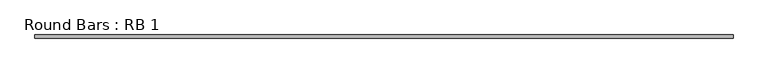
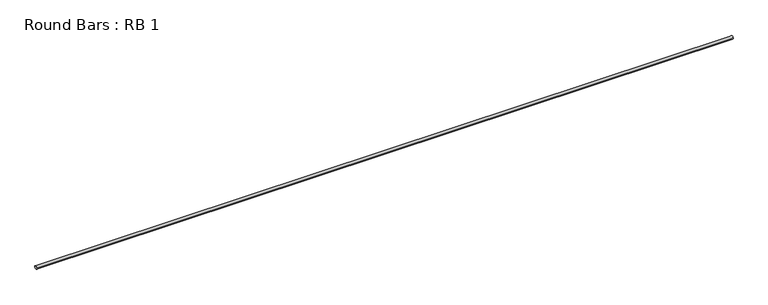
"""IFC4 building model written with IfcOpenShell, lengths in millimetres: beam geometry, Round Bars : RB 1."""

from ifc_helpers import new_model, si_unit, point, frame, origin, origin_2d, place, context, project, spatial, circle_curve, trimmed, segment, composite_curve, outline, extrude, source, transform, mapped, element, save


def round_bars_rb_1_474f25ab(model_context):
    return source(origin(), model_context, "Body", "SweptSolid", [
        extrude(outline(composite_curve([segment(trimmed(circle_curve(origin_2d(), 12.7), [point((-12.7, 0.0))], [point((12.7, 0.0))], False, "CARTESIAN"), True, "CONTINUOUS"), segment(trimmed(circle_curve(origin_2d(), 12.7), [point((12.7, 0.0))], [point((-12.7, 0.0))], False, "CARTESIAN"), True, "CONTINUOUS")], self_intersect=False)), frame((-2792.026853, 0.0, 0.0), z_axis=(1.0, 0.0, 0.0), x_axis=(0.0, 1.0, 0.0)), (0.0, 0.0, 1.0), 5584.053706),
    ])


if __name__ == "__main__":
    model = new_model("IFC4")
    model_context = context("Model", 3, world=origin())
    ifc_project = project(units=[si_unit("LENGTHUNIT", "METRE", prefix="MILLI")], contexts=[model_context])
    site = spatial("IfcSite", under=ifc_project)
    building = spatial("IfcBuilding", under=site)
    placement = place(None, origin())
    round_bars_rb_1_shape = round_bars_rb_1_474f25ab(model_context)
    element("IfcBeam", 1, ObjectType="Round Bars : RB 1", at=placement, inside=building, context=model_context, shape_type="MappedRepresentation", body=[
        mapped(round_bars_rb_1_shape, transform((0.0, 0.0, 0.0), x_axis=(1.0, 0.0, 0.0), y_axis=(0.0, 1.0, 0.0), z_axis=(0.0, 0.0, 1.0))),
    ])
    save(model, "model.ifc")
